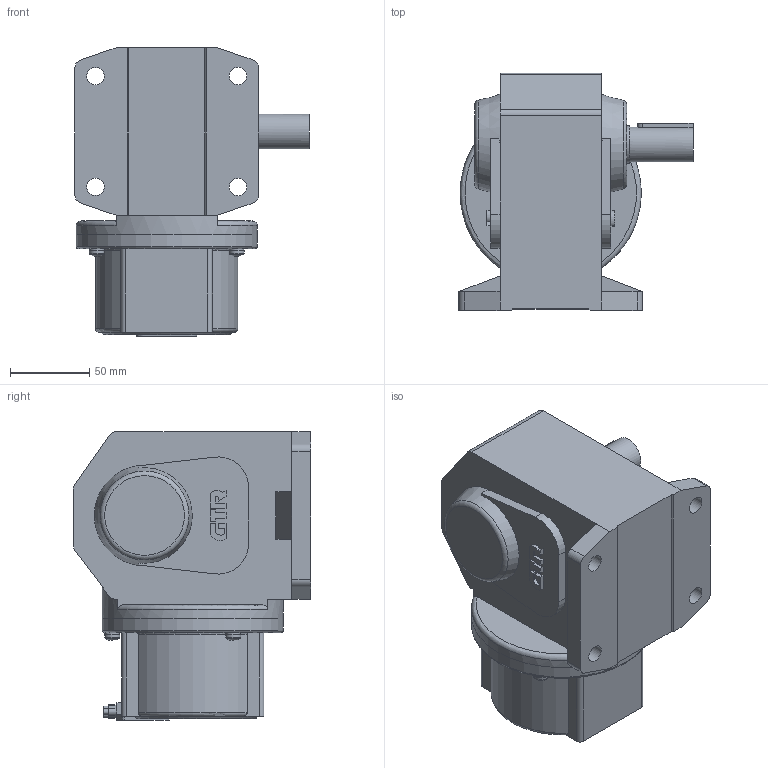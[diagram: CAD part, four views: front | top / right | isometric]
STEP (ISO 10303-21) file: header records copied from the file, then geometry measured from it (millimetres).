
FILE_DESCRIPTION( ( 'STEP AP203' ), ' ' );
FILE_NAME( 'p:/temp/worker_33/1948_3844/app_43_12018010905194984643320818fa3fd_000000_00_00_000000/format_0/VHLC22L-80N100L1.stp', '2018-01-09T04:19:51', ( '' ), ( '' ), ' ', 'PARTsolutions', ' ' );
FILE_SCHEMA( ( 'CONFIG_CONTROL_DESIGN' ) );
Length unit declared in the file: millimetre
Products named in the file (4): VHLC22L-80N100L1; _HL22L-No; _M90VP-DC_Motor case; _KEY 22
Assembly tree (3 placements, depth 2):
  VHLC22L-80N100L1
    _HL22L-No
    _M90VP-DC_Motor case
    _KEY 22
Bounding box: 148 x 150 x 182.5 mm (x, y, z)
Volume: 1737810 mm3; surface area: 135355.5 mm2
Topology: 3 solids, 3 shells, 231 faces, 599 edges, 395 vertices
Faces by surface type: plane 151, cylinder 61, torus 12, cone 4, sphere 3
Full cylindrical faces by diameter (mm): 3.5 x3, 6 x1, 9.2 x3, 9.5 x3, 11 x4, 22 x1, 24 x1, 114.5 x2
Entity records: 7162 total; most frequent: CARTESIAN_POINT 1441, DIRECTION 1149, ORIENTED_EDGE 1116, EDGE_CURVE 558, VERTEX_POINT 387, LINE 387, VECTOR 387, AXIS2_PLACEMENT_3D 381
